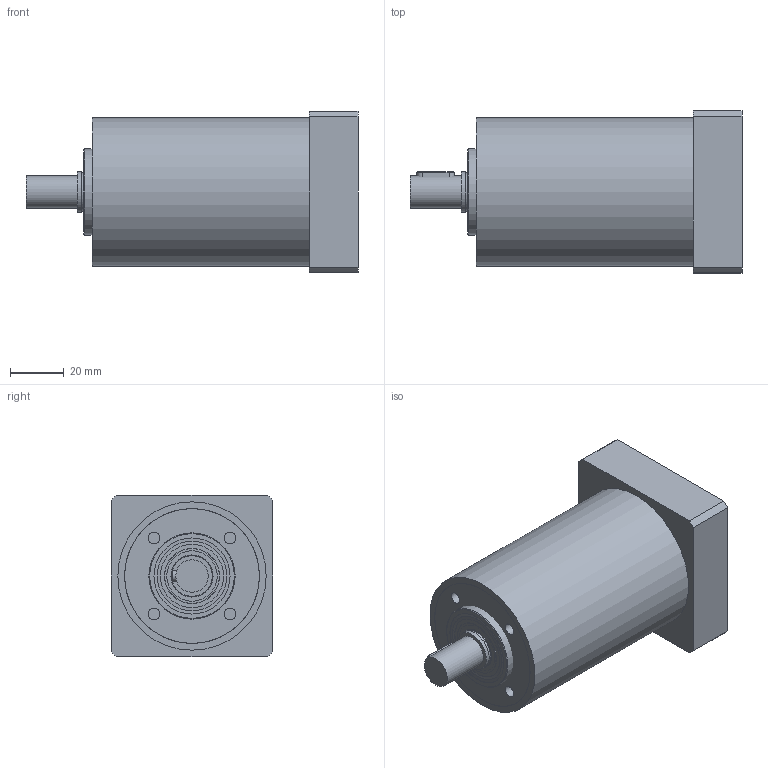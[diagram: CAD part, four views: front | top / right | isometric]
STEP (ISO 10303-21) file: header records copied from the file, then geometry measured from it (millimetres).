
FILE_DESCRIPTION(/* description */ (''),/* implementation_level */ '2;1');
FILE_NAME(/* name */ 'E000180613095MP270509145832_step203.stp',/* time_stamp */ '2009-05-27T15:00:19+02:00',/* author */ (''),/* organization */ (''),/* preprocessor_version */ 'ST-DEVELOPER v11',/* originating_system */ 'UGS - NX 5.0',/* authorisation */ '');
FILE_SCHEMA (('CONFIG_CONTROL_DESIGN'));
Length unit declared in the file: millimetre
Products named in the file (1): E000180613095MP270509145832_M
Bounding box: 123.1 x 60 x 60 mm (x, y, z)
Volume: 302840.9 mm3; surface area: 62068.2 mm2
Topology: 12 solids, 12 shells, 140 faces, 288 edges, 183 vertices
Faces by surface type: cylinder 53, plane 50, cone 27, torus 10
Full cylindrical faces by diameter (mm): 3.432 x9, 4.351 x4, 4.5 x1, 6.35 x1, 7.5 x1, 9.75 x1, 10 x1, 12 x1, 14.3 x1, 15 x4, 18.7 x2, 20.5 x2, 27 x2, 28.2 x4, 32 x1, 35.5 x1, 38.1 x1, 43 x1, 46.8 x1, 49.95 x1, 50 x3, 55 x1
Entity records: 3278 total; most frequent: DIRECTION 584, CARTESIAN_POINT 582, ORIENTED_EDGE 362, AXIS2_PLACEMENT_3D 265, EDGE_LOOP 244, FACE_BOUND 220, EDGE_CURVE 181, VERTEX_POINT 165
